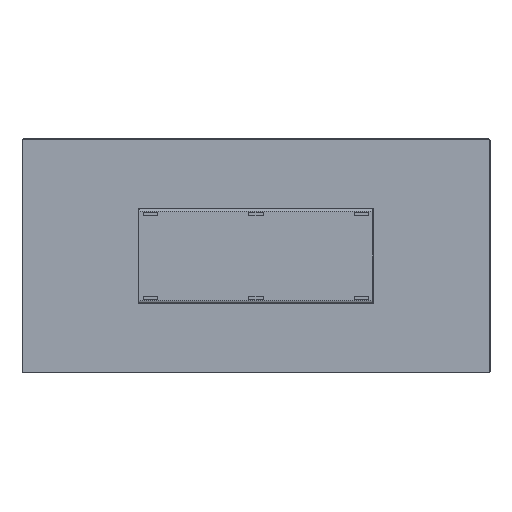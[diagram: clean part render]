
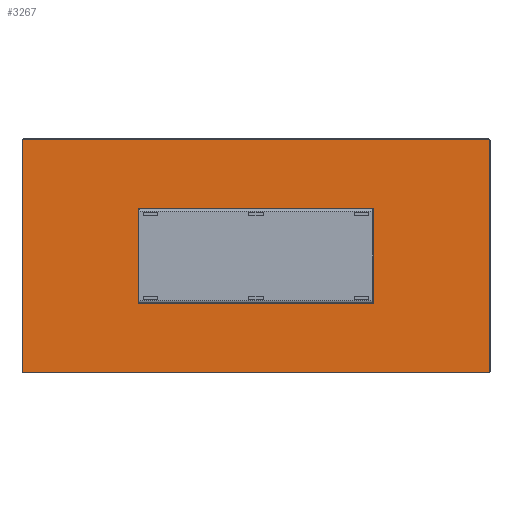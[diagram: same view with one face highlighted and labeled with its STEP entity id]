
A CAD part, front view. The second image highlights one B-rep face of the part: STEP entity #3267.
In plain terms, the highlighted planar face has unit normal (0, -1, 0).
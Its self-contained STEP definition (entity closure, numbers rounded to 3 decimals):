
#2862=CARTESIAN_POINT('',(-999.0,723.,695.0));
#2863=VERTEX_POINT('',#2862);
#2880=CARTESIAN_POINT('',(-999.,723.,-295.));
#2881=VERTEX_POINT('',#2880);
#2888=CARTESIAN_POINT('',(-999.,723.,-295.));
#2889=DIRECTION('',(0.0,0.0,1.0));
#2890=VECTOR('',#2889,990.);
#2891=LINE('',#2888,#2890);
#2892=EDGE_CURVE('',#2881,#2863,#2891,.T.);
#2904=CARTESIAN_POINT('',(-995.0,723.,-299.));
#2905=VERTEX_POINT('',#2904);
#2912=CARTESIAN_POINT('',(-995.0,723.,-295.));
#2913=DIRECTION('',(0.,1.,0.));
#2914=DIRECTION('',(-0.707,0.,-0.707));
#2915=AXIS2_PLACEMENT_3D('',#2912,#2913,#2914);
#2916=CIRCLE('',#2915,4.);
#2917=EDGE_CURVE('',#2905,#2881,#2916,.T.);
#2937=CARTESIAN_POINT('',(995.0,723.,-299.0));
#2938=VERTEX_POINT('',#2937);
#2945=CARTESIAN_POINT('',(995.0,723.,-299.0));
#2946=DIRECTION('',(-1.0,0.0,0.0));
#2947=VECTOR('',#2946,1990.0);
#2948=LINE('',#2945,#2947);
#2949=EDGE_CURVE('',#2938,#2905,#2948,.T.);
#2968=CARTESIAN_POINT('',(999.0,723.,-295.0));
#2969=VERTEX_POINT('',#2968);
#2976=CARTESIAN_POINT('',(995.0,723.,-295.0));
#2977=DIRECTION('',(0.,1.,0.));
#2978=DIRECTION('',(0.707,0.,-0.707));
#2979=AXIS2_PLACEMENT_3D('',#2976,#2977,#2978);
#2980=CIRCLE('',#2979,4.);
#2981=EDGE_CURVE('',#2969,#2938,#2980,.T.);
#3001=CARTESIAN_POINT('',(999.0,723.,695.0));
#3002=VERTEX_POINT('',#3001);
#3009=CARTESIAN_POINT('',(999.0,723.,695.));
#3010=DIRECTION('',(0.0,0.0,-1.0));
#3011=VECTOR('',#3010,990.);
#3012=LINE('',#3009,#3011);
#3013=EDGE_CURVE('',#3002,#2969,#3012,.T.);
#3032=CARTESIAN_POINT('',(995.0,723.,699.));
#3033=VERTEX_POINT('',#3032);
#3040=CARTESIAN_POINT('',(995.0,723.,695.0));
#3041=DIRECTION('',(0.,1.,0.));
#3042=DIRECTION('',(0.707,0.,0.707));
#3043=AXIS2_PLACEMENT_3D('',#3040,#3041,#3042);
#3044=CIRCLE('',#3043,4.);
#3045=EDGE_CURVE('',#3033,#3002,#3044,.T.);
#3065=CARTESIAN_POINT('',(-995.0,723.,699.0));
#3066=VERTEX_POINT('',#3065);
#3073=CARTESIAN_POINT('',(-995.0,723.,699.0));
#3074=DIRECTION('',(1.0,0.0,0.0));
#3075=VECTOR('',#3074,1990.0);
#3076=LINE('',#3073,#3075);
#3077=EDGE_CURVE('',#3066,#3033,#3076,.T.);
#3103=CARTESIAN_POINT('',(-995.0,723.,695.0));
#3104=DIRECTION('',(0.,1.,0.));
#3105=DIRECTION('',(-0.707,0.,0.707));
#3106=AXIS2_PLACEMENT_3D('',#3103,#3104,#3105);
#3107=CIRCLE('',#3106,4.);
#3108=EDGE_CURVE('',#2863,#3066,#3107,.T.);
#3218=CARTESIAN_POINT('',(0.,723.,200.));
#3219=DIRECTION('',(0.0,1.0,0.0));
#3220=DIRECTION('',(0.0,0.0,1.0));
#3221=AXIS2_PLACEMENT_3D('',#3218,#3219,#3220);
#3222=PLANE('',#3221);
#3223=ORIENTED_EDGE('',*,*,#2892,.F.);
#3224=ORIENTED_EDGE('',*,*,#2917,.F.);
#3225=ORIENTED_EDGE('',*,*,#2949,.F.);
#3226=ORIENTED_EDGE('',*,*,#2981,.F.);
#3227=ORIENTED_EDGE('',*,*,#3013,.F.);
#3228=ORIENTED_EDGE('',*,*,#3045,.F.);
#3229=ORIENTED_EDGE('',*,*,#3077,.F.);
#3230=ORIENTED_EDGE('',*,*,#3108,.F.);
#3231=EDGE_LOOP('',(#3223,#3224,#3225,#3226,#3227,#3228,#3229,#3230));
#3232=FACE_OUTER_BOUND('',#3231,.T.);
#3233=CARTESIAN_POINT('',(-499.,723.,1.));
#3234=VERTEX_POINT('',#3233);
#3235=CARTESIAN_POINT('',(-499.0,723.,399.0));
#3236=VERTEX_POINT('',#3235);
#3237=CARTESIAN_POINT('',(-499.,723.,1.));
#3238=DIRECTION('',(0.0,0.0,1.0));
#3239=VECTOR('',#3238,398.);
#3240=LINE('',#3237,#3239);
#3241=EDGE_CURVE('',#3234,#3236,#3240,.T.);
#3242=ORIENTED_EDGE('',*,*,#3241,.T.);
#3243=CARTESIAN_POINT('',(499.,723.,399.));
#3244=VERTEX_POINT('',#3243);
#3245=CARTESIAN_POINT('',(-499.0,723.,399.0));
#3246=DIRECTION('',(1.0,0.0,0.0));
#3247=VECTOR('',#3246,998.);
#3248=LINE('',#3245,#3247);
#3249=EDGE_CURVE('',#3236,#3244,#3248,.T.);
#3250=ORIENTED_EDGE('',*,*,#3249,.T.);
#3251=CARTESIAN_POINT('',(499.,723.,1.));
#3252=VERTEX_POINT('',#3251);
#3253=CARTESIAN_POINT('',(499.0,723.,399.));
#3254=DIRECTION('',(0.0,0.0,-1.0));
#3255=VECTOR('',#3254,398.);
#3256=LINE('',#3253,#3255);
#3257=EDGE_CURVE('',#3244,#3252,#3256,.T.);
#3258=ORIENTED_EDGE('',*,*,#3257,.T.);
#3259=CARTESIAN_POINT('',(499.,723.,1.));
#3260=DIRECTION('',(-1.0,0.0,0.0));
#3261=VECTOR('',#3260,998.);
#3262=LINE('',#3259,#3261);
#3263=EDGE_CURVE('',#3252,#3234,#3262,.T.);
#3264=ORIENTED_EDGE('',*,*,#3263,.T.);
#3265=EDGE_LOOP('',(#3242,#3250,#3258,#3264));
#3266=FACE_BOUND('',#3265,.T.);
#3267=ADVANCED_FACE('',(#3232,#3266),#3222,.F.);
